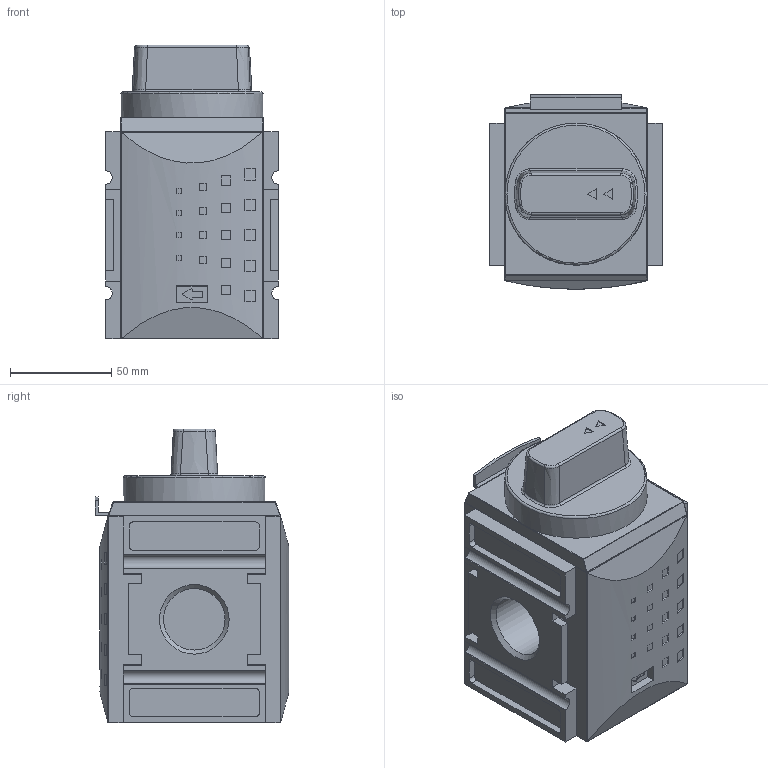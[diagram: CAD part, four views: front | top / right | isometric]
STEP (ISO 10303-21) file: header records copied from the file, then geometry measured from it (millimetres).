
FILE_DESCRIPTION((''),'2;1');
FILE_NAME('K:\ZEICHNG\Kunden Modelle\FUTURA Steps\BG4\KBAM-41.stp','2010-02-09T11:12:10',('DDruske'),(''),'Autodesk Inventor 2009','Autodesk Inventor 2009','');
FILE_SCHEMA(('AUTOMOTIVE_DESIGN { 1 0 10303 214 1 1 1 1 }'));
Length unit declared in the file: millimetre
Products named in the file (1): Bauteil11
Bounding box: 85 x 95.52 x 144.7 mm (x, y, z)
Volume: 765030.9 mm3; surface area: 82853.7 mm2
Topology: 1 solids, 2 shells, 468 faces, 1182 edges, 756 vertices
Faces by surface type: plane 260, cylinder 117, bspline 68, torus 11, sphere 8, cone 4
Full cylindrical faces by diameter (mm): 24.1 x1, 30.291 x1, 70 x1
Entity records: 15572 total; most frequent: CARTESIAN_POINT 3849, ORIENTED_EDGE 2328, DIRECTION 2276, EDGE_CURVE 1164, VECTOR 774, LINE 774, VERTEX_POINT 754, AXIS2_PLACEMENT_3D 751
